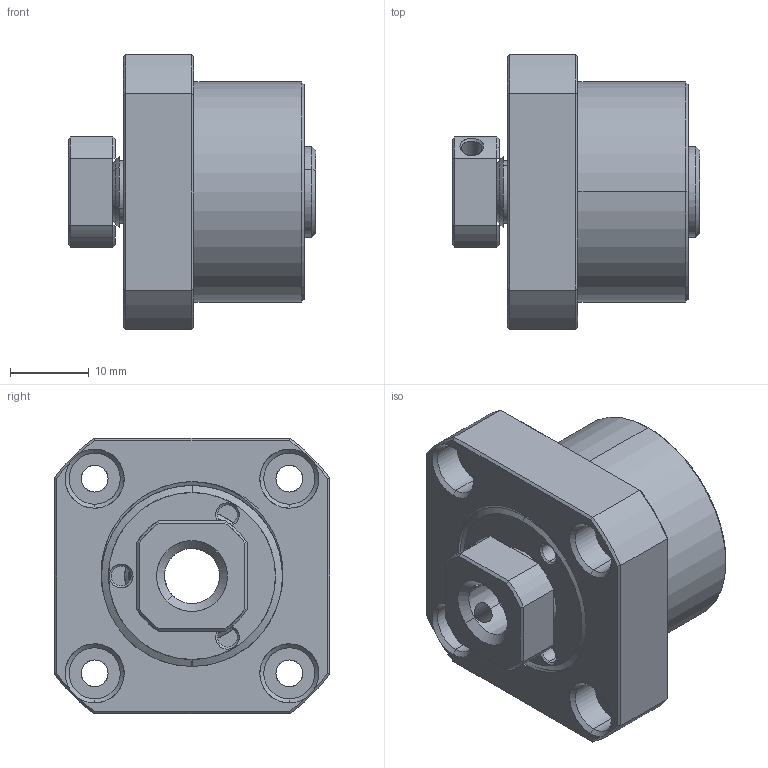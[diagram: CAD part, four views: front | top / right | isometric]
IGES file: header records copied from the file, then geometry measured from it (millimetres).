
Start section: SolidWorks IGES file using analytic representation for surfaces
Global section: file name: 5HC:\Users\117\Desktop\1061208網站3D圖檔問題處理\方型本體\支撐座固定端\FK\FK08組合A.IGS; native system: SolidWorks 2017; preprocessor: SolidWorks 2017; author: 117; date: 171228.133759; units: millimetre
Bounding box: 31.5 x 35 x 35 mm (x, y, z)
Surface area: 7650.5 mm2 (no closed solid volume)
Topology: 0 solids, 0 shells, 159 faces, 2276 edges, 2276 vertices
Faces by surface type: revolution 114, bspline 45
